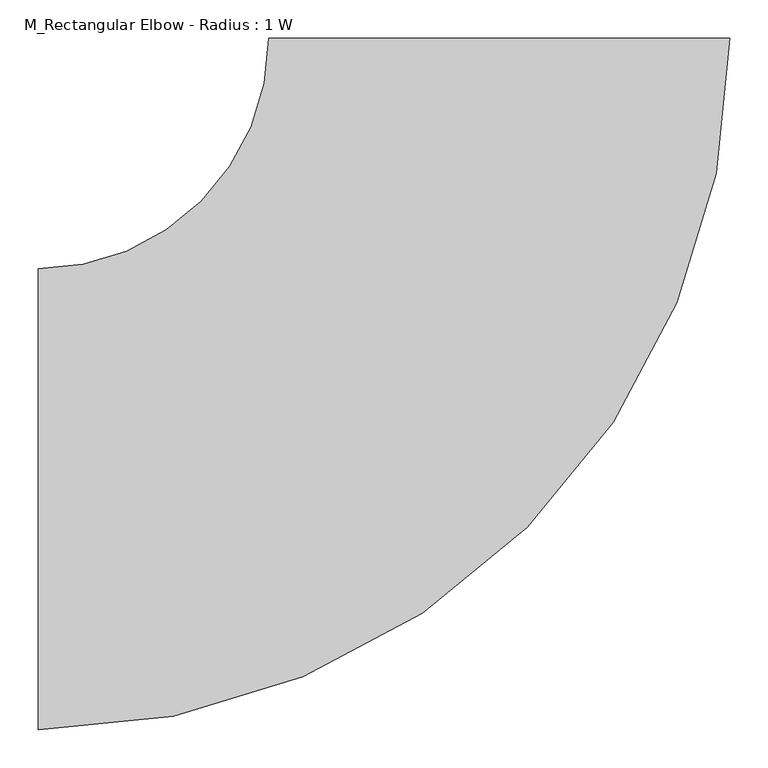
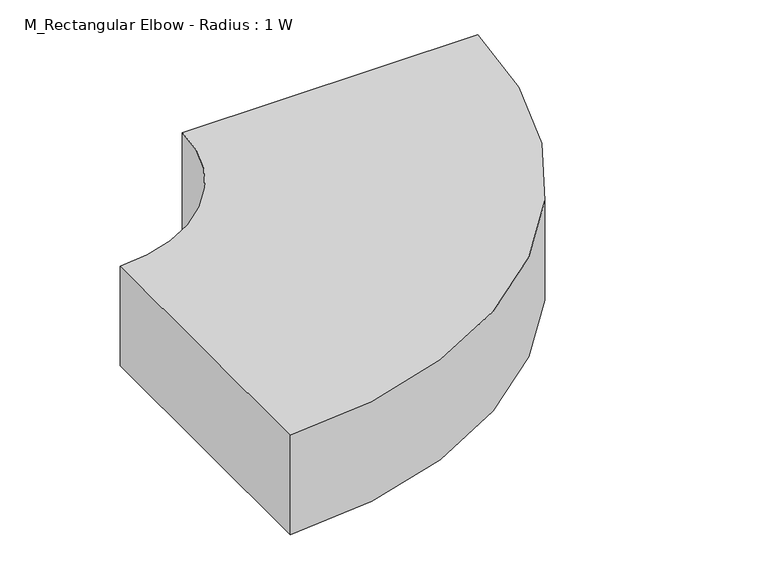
"""IFC4 building model written with IfcOpenShell, lengths in millimetres: duct fitting geometry, M_Rectangular Elbow - Radius : 1 W."""

from ifc_helpers import new_model, si_unit, point, frame, frame_2d, origin, place, context, project, spatial, polyline, circle_curve, trimmed, segment, composite_curve, outline, extrude, source, transform, mapped, element, save


def m_rectangular_elbow_radius_1_w_907e8aaa(model_context):
    return source(origin(), model_context, "Body", "SweptSolid", [
        extrude(outline(composite_curve([segment(trimmed(circle_curve(frame_2d((-600.0, 600.0)), 900.0), [point((300.0, 600.0))], [point((-600.0, -300.0))], False, "CARTESIAN"), True, "CONTINUOUS"), segment(polyline([(-600.0, -300.0), (-600.0, 300.0)]), True, "CONTINUOUS"), segment(trimmed(circle_curve(frame_2d((-600.0, 600.0)), 300.0), [point((-600.0, 300.0))], [point((-300.0, 600.0))], True, "CARTESIAN"), True, "CONTINUOUS"), segment(polyline([(-300.0, 600.0), (300.0, 600.0)]), True, "CONTINUOUS")], self_intersect=False)), frame((0.0, 0.0, -107.0), z_axis=(0.0, 0.0, 1.0), x_axis=(1.0, 0.0, 0.0)), (0.0, 0.0, 1.0), 214.0),
    ])


if __name__ == "__main__":
    model = new_model("IFC4")
    model_context = context("Model", 3, world=origin())
    ifc_project = project(units=[si_unit("LENGTHUNIT", "METRE", prefix="MILLI")], contexts=[model_context])
    site = spatial("IfcSite", under=ifc_project)
    building = spatial("IfcBuilding", under=site)
    placement = place(None, origin())
    m_rectangular_elbow_radius_1_w_shape = m_rectangular_elbow_radius_1_w_907e8aaa(model_context)
    element("IfcDuctFitting", 1, ObjectType="M_Rectangular Elbow - Radius : 1 W", at=placement, inside=building, context=model_context, shape_type="MappedRepresentation", body=[
        mapped(m_rectangular_elbow_radius_1_w_shape, transform((0.0, 0.0, 0.0), x_axis=(1.0, 0.0, 0.0), y_axis=(0.0, 1.0, 0.0), z_axis=(0.0, 0.0, 1.0))),
    ])
    save(model, "model.ifc")
